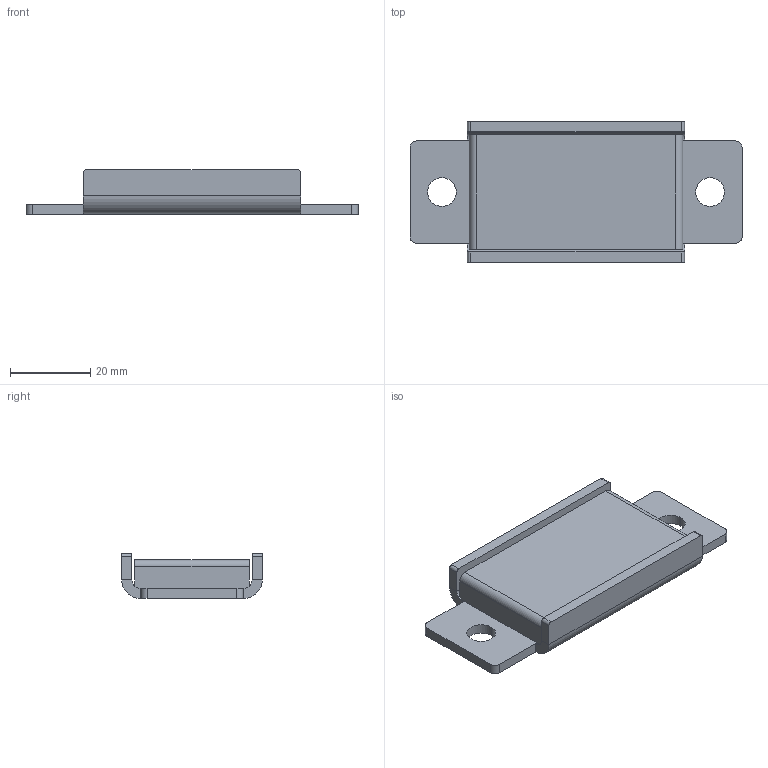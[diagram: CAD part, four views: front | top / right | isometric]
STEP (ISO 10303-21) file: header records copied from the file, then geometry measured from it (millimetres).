
FILE_DESCRIPTION (( 'STEP AP203' ), '1' );
FILE_NAME ('LP2101.STEP', '2018-07-27T14:23:38', ( '' ), ( '' ), 'SwSTEP 2.0', 'SolidWorks 2015', '' );
FILE_SCHEMA (( 'CONFIG_CONTROL_DESIGN' ));
Length unit declared in the file: inch
Products named in the file (1): LP2101
Bounding box: 82.55 x 34.92 x 11.13 mm (x, y, z)
Volume: 9794.1 mm3; surface area: 11212.6 mm2
Topology: 2 solids, 2 shells, 64 faces, 148 edges, 88 vertices
Faces by surface type: plane 44, cylinder 20
Entity records: 1861 total; most frequent: DIRECTION 318, CARTESIAN_POINT 301, ORIENTED_EDGE 296, EDGE_CURVE 148, VECTOR 108, LINE 108, AXIS2_PLACEMENT_3D 105, VERTEX_POINT 88
